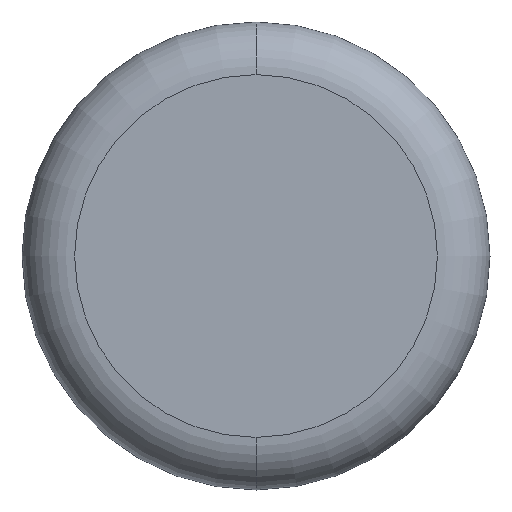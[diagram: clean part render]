
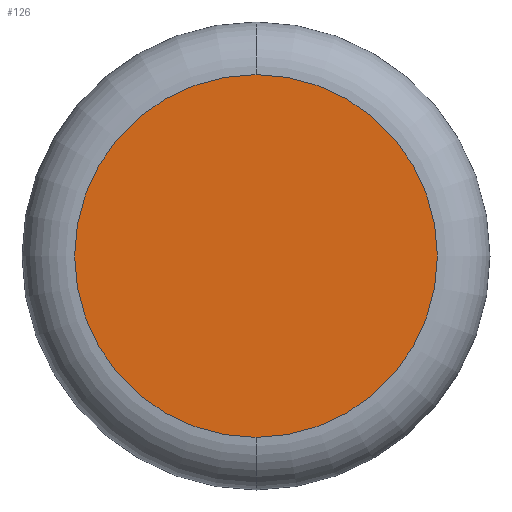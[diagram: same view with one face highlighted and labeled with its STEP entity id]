
A CAD part, front view. The second image highlights one B-rep face of the part: STEP entity #126.
In plain terms, the highlighted planar face has unit normal (0, -1, 0).
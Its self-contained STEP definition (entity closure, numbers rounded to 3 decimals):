
#6 = CARTESIAN_POINT ( 'NONE',  ( 0., 0., 0. ) ) ;
#8 = EDGE_CURVE ( 'NONE', #234, #150, #76, .T. ) ;
#33 = PLANE ( 'NONE',  #421 ) ;
#70 = CIRCLE ( 'NONE', #338, 310. ) ;
#75 = DIRECTION ( 'NONE',  ( 0., 1., 0. ) ) ;
#76 = CIRCLE ( 'NONE', #119, 310. ) ;
#114 = EDGE_LOOP ( 'NONE', ( #531, #162 ) ) ;
#119 = AXIS2_PLACEMENT_3D ( 'NONE', #334, #515, #473 ) ;
#126 = ADVANCED_FACE ( 'NONE', ( #230 ), #33, .F. ) ;
#150 = VERTEX_POINT ( 'NONE', #527 ) ;
#152 = DIRECTION ( 'NONE',  ( 0., -1., 0. ) ) ;
#162 = ORIENTED_EDGE ( 'NONE', *, *, #376, .T. ) ;
#230 = FACE_OUTER_BOUND ( 'NONE', #114, .T. ) ;
#234 = VERTEX_POINT ( 'NONE', #273 ) ;
#273 = CARTESIAN_POINT ( 'NONE',  ( 0., 0., -310. ) ) ;
#312 = DIRECTION ( 'NONE',  ( 0., 0., 1. ) ) ;
#320 = DIRECTION ( 'NONE',  ( 0., 0., -1. ) ) ;
#334 = CARTESIAN_POINT ( 'NONE',  ( 0., 0., 0. ) ) ;
#338 = AXIS2_PLACEMENT_3D ( 'NONE', #6, #152, #320 ) ;
#376 = EDGE_CURVE ( 'NONE', #150, #234, #70, .T. ) ;
#421 = AXIS2_PLACEMENT_3D ( 'NONE', #438, #75, #312 ) ;
#438 = CARTESIAN_POINT ( 'NONE',  ( -310., 0., 0. ) ) ;
#473 = DIRECTION ( 'NONE',  ( 0., 0., -1. ) ) ;
#515 = DIRECTION ( 'NONE',  ( 0., -1., 0. ) ) ;
#527 = CARTESIAN_POINT ( 'NONE',  ( 0., 0., 310. ) ) ;
#531 = ORIENTED_EDGE ( 'NONE', *, *, #8, .T. ) ;
